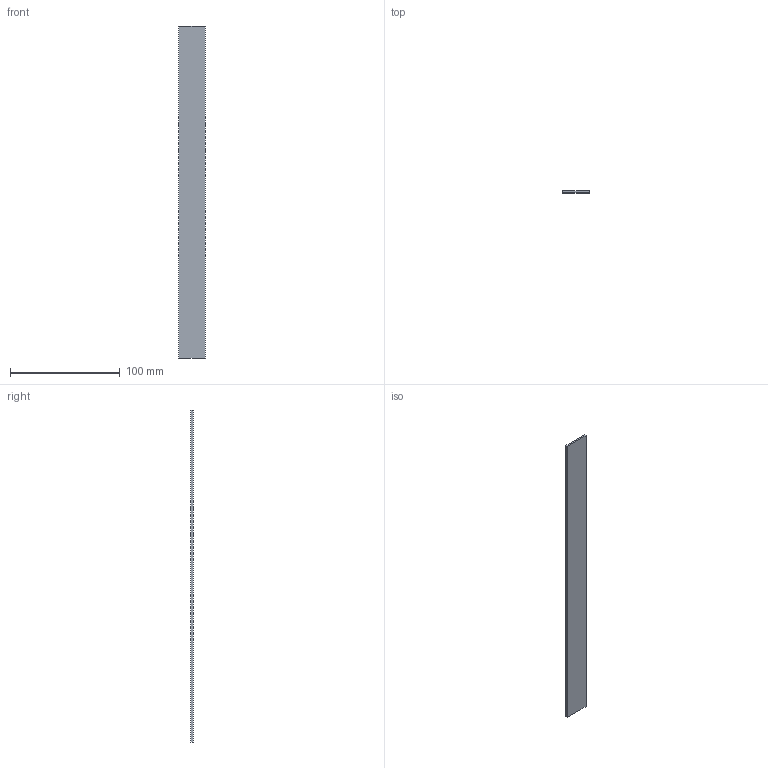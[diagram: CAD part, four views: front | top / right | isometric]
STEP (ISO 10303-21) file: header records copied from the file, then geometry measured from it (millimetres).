
FILE_DESCRIPTION (( 'STEP AP214' ), '1' );
FILE_NAME ('LSNY-00-300-X-X-24V-DIFFUSER.STEP', '2022-05-11T09:50:36', ( '' ), ( '' ), 'SwSTEP 2.0', 'SolidWorks 2021', '' );
FILE_SCHEMA (( 'AUTOMOTIVE_DESIGN' ));
Length unit declared in the file: millimetre
Products named in the file (1): LSNY-00-300-X-X-24V-DIFFUSER
Bounding box: 24 x 1.9 x 302 mm (x, y, z)
Volume: 13771.2 mm3; surface area: 15734.8 mm2
Topology: 1 solids, 1 shells, 6 faces, 12 edges, 8 vertices
Faces by surface type: plane 6
Entity records: 190 total; most frequent: CARTESIAN_POINT 27, DIRECTION 26, ORIENTED_EDGE 24, VECTOR 12, EDGE_CURVE 12, LINE 12, VERTEX_POINT 8, AXIS2_PLACEMENT_3D 7
